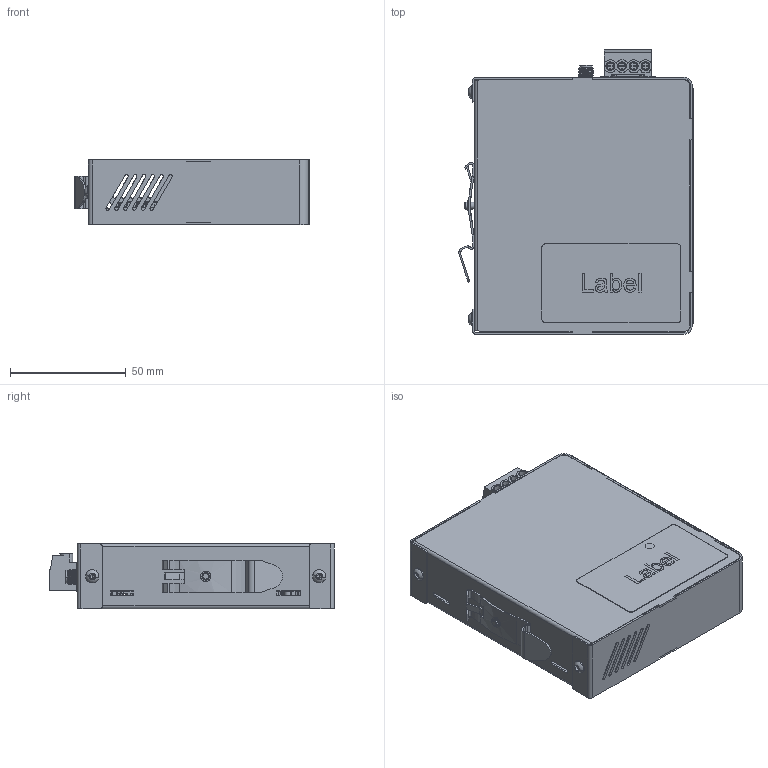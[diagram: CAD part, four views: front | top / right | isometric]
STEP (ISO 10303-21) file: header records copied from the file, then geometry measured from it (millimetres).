
FILE_DESCRIPTION (( 'STEP AP214' ), '1' );
FILE_NAME ('01-692-24XX_Router 24XX.STEP', '2019-12-06T09:23:39', ( 'Windows-Benutzer' ), ( '' ), 'SwSTEP 2.0', 'SolidWorks 2018', '' );
FILE_SCHEMA (( 'AUTOMOTIVE_DESIGN' ));
Length unit declared in the file: millimetre
Products named in the file (33): X13_1.STEP; Extruded_1_3.STEP; Label_34x60.STEP; 1026109424_1.STEP; SIM card.STEP; X6_1.STEP; User_Library-142-0701-301.STEP; 1010026982-rev_C_3.STEP; Extruded_1_10.STEP; Cylinder_1_2.STEP; sl-smt_5.08hc_04_90g_3.2sn_bk_bx_1780200000_1.STEP; 723334544_1.STEP; Cover_C5.STEP; IXrouter_2.2_ver1(VariantWith3G)_USER.STEP; 1124502432_1.STEP; 739130288_1.STEP; X4_1.STEP; socket button head cap screw_am_B18.3.4M - 3 x 0.5 x 5 SBHCS --N.STEP; Extruded_1_5.STEP; X11_1.STEP; 956522480_1.STEP; blind standoff_pmm_PEM BSOS-3.5M3-6 ---N.STEP; base_C5_Assy.STEP; 650185488_1.STEP; BLZP 5.08HC_04_180 SN BK BX 1943830000.STEP; Base_C5.STEP; Cylinder_1.STEP; Folie Sigmatek Router 24XX; Extruded_1_9.STEP; FM 4_TS35 0687900000.STEP; 14379_1.STEP; 01-692-24XX_Router 24XX; X8.STEP
Assembly tree (81 placements, depth 5):
  01-692-24XX_Router 24XX
    base_C5_Assy.STEP
      Base_C5.STEP
      blind standoff_pmm_PEM BSOS-3.5M3-6 ---N.STEP
    IXrouter_2.2_ver1(VariantWith3G)_USER.STEP
      X13_1.STEP
        650185488_1.STEP  x7
          Cylinder_1.STEP
        723334544_1.STEP  x2
          Cylinder_1_2.STEP
        956522480_1.STEP
          Extruded_1_3.STEP
        1124502432_1.STEP  x2
          Extruded_1_5.STEP
      X6_1.STEP
        sl-smt_5.08hc_04_90g_3.2sn_bk_bx_1780200000_1.STEP
      X8.STEP
        1010026982-rev_C_3.STEP
      X11_1.STEP
        14379_1.STEP
      X4_1.STEP
        650185488_1.STEP  x32
          Cylinder_1.STEP
        723334544_1.STEP  x2
          Cylinder_1_2.STEP
        739130288_1.STEP
          Extruded_1_9.STEP
        1124502432_1.STEP  x2
          Extruded_1_5.STEP
        1026109424_1.STEP  x3
          Extruded_1_10.STEP
      User_Library-142-0701-301.STEP
    Cover_C5.STEP
    BLZP 5.08HC_04_180 SN BK BX 1943830000.STEP
    SIM card.STEP
    socket button head cap screw_am_B18.3.4M - 3 x 0.5 x 5 SBHCS --N.STEP  x4
    FM 4_TS35 0687900000.STEP
    Label_34x60.STEP
    Folie Sigmatek Router 24XX
Bounding box: 101.16 x 122.86 x 28.3 mm (x, y, z)
Volume: 46973.5 mm3; surface area: 92396 mm2
Topology: 88 solids, 88 shells, 4191 faces, 11482 edges, 7573 vertices
Faces by surface type: plane 2451, bspline 908, cylinder 768, cone 48, torus 8, sphere 8
Entity records: 137705 total; most frequent: CARTESIAN_POINT 38668, ORIENTED_EDGE 21984, DIRECTION 16341, EDGE_CURVE 10992, VECTOR 7637, LINE 7637, VERTEX_POINT 7264, AXIS2_PLACEMENT_3D 4352
